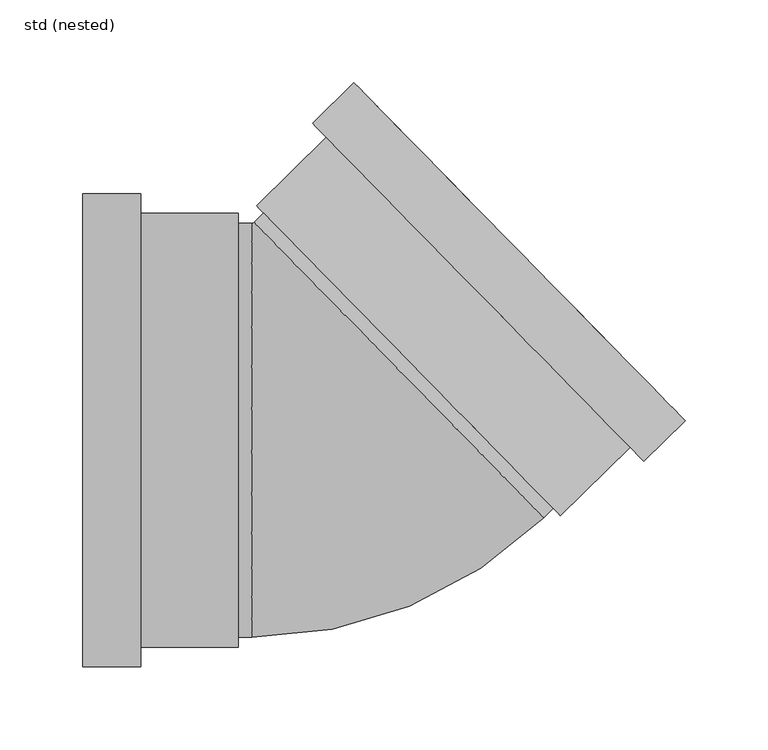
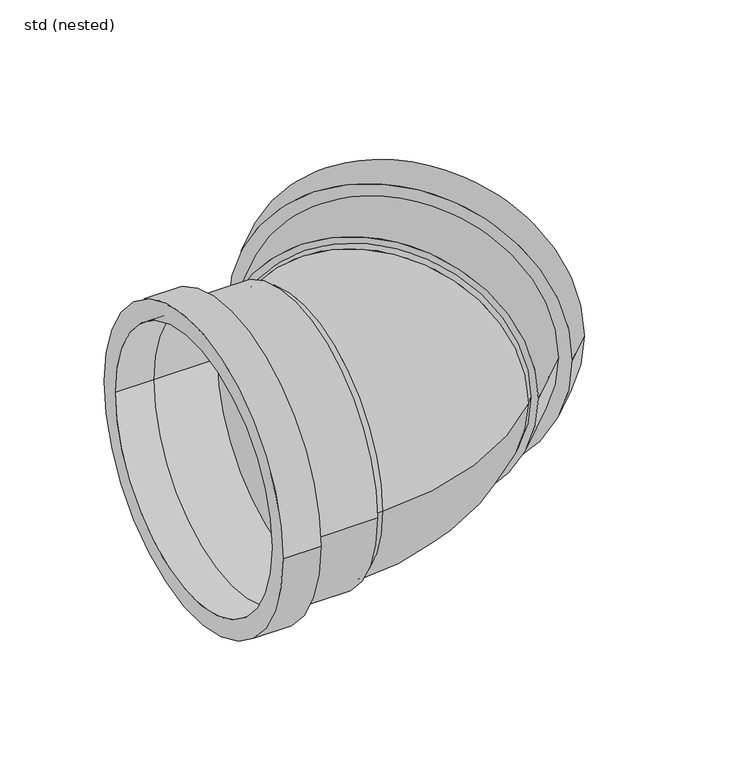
"""IFC4 building model written with IfcOpenShell, lengths in millimetres: pipe fitting geometry, NLRS_52_PIF_UN_SN4 SN8 bocht -SH_Dyka : std (nested)."""

from ifc_helpers import new_model, si_unit, point, frame, origin, place, context, project, spatial, polyline, circle_curve, ellipse_curve, trimmed, source, transform, mapped, element, save
from ifc_brep_helpers import plane_surface, cylinder_surface, revolved_surface, advanced_brep


def std_nested_1cf550fe(model_context):
    return source(origin(), model_context, "Body", "AdvancedBrep", [
        advanced_brep(
        [(-154.0, -143.0, 0.0), (-154.0, 143.0, 0.0), (-154.0, -125.0, 0.0), (-154.0, 125.0, 0.0), (-119.0, -125.0, 0.0), (-119.0, 125.0, 0.0), (-119.0, -143.0, 0.0), (-119.0, 143.0, 0.0), (-119.0, -131.2, 0.0), (-119.0, 131.2, 0.0), (-60.0, -131.2, 0.0), (-60.0, 131.2, 0.0), (-60.0, -125.0, 0.0), (-60.0, 125.0, 0.0)],
        [
            (0, 1, circle_curve(frame((-154.0, 0.0, 0.0), z_axis=(-1.0, 0.0, 0.0), x_axis=(0.0, 1.0, 0.0)), 143.0)),
            (1, 0, circle_curve(frame((-154.0, 0.0, 0.0), z_axis=(-1.0, 0.0, 0.0), x_axis=(0.0, 1.0, 0.0)), 143.0)),
            (2, 3, circle_curve(frame((-154.0, 0.0, 0.0), z_axis=(1.0, 0.0, 0.0), x_axis=(0.0, 1.0, 0.0)), 125.0)),
            (3, 2, circle_curve(frame((-154.0, 0.0, 0.0), z_axis=(1.0, 0.0, 0.0), x_axis=(0.0, 1.0, 0.0)), 125.0)),
            (2, 4),
            (4, 5, circle_curve(frame((-119.0, 0.0, 0.0), z_axis=(1.0, 0.0, 0.0), x_axis=(0.0, 1.0, 0.0)), 125.0)),
            (5, 3),
            (5, 4, circle_curve(frame((-119.0, 0.0, 0.0), z_axis=(1.0, 0.0, 0.0), x_axis=(0.0, 1.0, 0.0)), 125.0)),
            (0, 6),
            (6, 7, circle_curve(frame((-119.0, 0.0, 0.0), z_axis=(-1.0, 0.0, 0.0), x_axis=(0.0, 1.0, 0.0)), 143.0)),
            (7, 1),
            (7, 6, circle_curve(frame((-119.0, 0.0, 0.0), z_axis=(-1.0, 0.0, 0.0), x_axis=(0.0, 1.0, 0.0)), 143.0)),
            (8, 9, circle_curve(frame((-119.0, 0.0, 0.0), z_axis=(-1.0, 0.0, 0.0), x_axis=(0.0, 1.0, 0.0)), 131.2)),
            (9, 8, circle_curve(frame((-119.0, 0.0, 0.0), z_axis=(-1.0, 0.0, 0.0), x_axis=(0.0, 1.0, 0.0)), 131.2)),
            (10, 11, circle_curve(frame((-60.0, 0.0, 0.0), z_axis=(1.0, 0.0, 0.0), x_axis=(0.0, 1.0, 0.0)), 131.2)),
            (11, 10, circle_curve(frame((-60.0, 0.0, 0.0), z_axis=(1.0, 0.0, 0.0), x_axis=(0.0, 1.0, 0.0)), 131.2)),
            (12, 13, circle_curve(frame((-60.0, 0.0, 0.0), z_axis=(-1.0, 0.0, 0.0), x_axis=(0.0, 1.0, 0.0)), 125.0)),
            (13, 12, circle_curve(frame((-60.0, 0.0, 0.0), z_axis=(-1.0, 0.0, 0.0), x_axis=(0.0, 1.0, 0.0)), 125.0)),
            (13, 5),
            (4, 12),
            (11, 9),
            (8, 10),
        ],
        [
            plane_surface(frame((-154.0, 125.0, 0.0), z_axis=(-1.0, 0.0, 0.0), x_axis=(0.0, 0.0, 1.0))),
            revolved_surface(polyline([(-119.0, 125.0, 0.0), (-154.0, 125.0, 0.0)]), (-119.0, 0.0, 0.0), (1.0, 0.0, 0.0)),
            cylinder_surface(frame((-60.0, 0.0, 0.0), z_axis=(-1.0, 0.0, 0.0), x_axis=(0.0, 1.0, 0.0)), 143.0),
            plane_surface(frame((-119.0, 125.0, 0.0), z_axis=(1.0, 0.0, 0.0), x_axis=(0.0, 0.0, -1.0))),
            plane_surface(frame((-60.0, 125.0, 0.0), z_axis=(1.0, 0.0, 0.0), x_axis=(0.0, 0.0, -1.0))),
            revolved_surface(polyline([(-60.0, 125.0, 0.0), (-119.0, 125.0, 0.0)]), (-60.0, 0.0, 0.0), (1.0, 0.0, 0.0)),
            cylinder_surface(frame((-60.0, 0.0, 0.0), z_axis=(-1.0, 0.0, 0.0), x_axis=(0.0, 1.0, 0.0)), 131.2),
        ],
        [
            (0, [[1, 2], [3, 4]]),
            (1, [[-3, 5, 6, 7]]),
            (1, [[-4, -7, 8, -5]]),
            (2, [[-1, 9, 10, 11]]),
            (2, [[-2, -11, 12, -9]]),
            (3, [[-12, -10], [13, 14]]),
            (4, [[15, 16], [17, 18]]),
            (5, [[-18, 19, -6, 20]]),
            (5, [[-17, -20, -8, -19]]),
            (6, [[-16, 21, -13, 22]]),
            (6, [[-15, -22, -14, -21]]),
        ],
    ),
        advanced_brep(
        [(9.877578, 209.9224463, 0.0), (210.0779864, 5.6779936, 0.0), (22.4776037, 197.0679003, 0.0), (197.4779607, 18.5325396, 0.0), (-2.5173468, 172.5678503, 0.0), (172.4830102, -5.9675104, 0.0), (-15.1173725, 185.4223963, 0.0), (185.0830359, -18.8220564, 0.0), (-48.9917008, 135.695443, 0.0), (134.688674, -51.6952716, 0.0), (-44.6516919, 131.2677661, 0.0), (130.3486651, -47.2675947, 0.0), (176.8230191, -10.3951874, 0.0), (-6.8573557, 176.9955273, 0.0)],
        [
            (0, 1, circle_curve(frame((109.9777822, 107.8002199, 0.0), z_axis=(0.7141414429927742, 0.7000014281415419, 0.0), x_axis=(0.7000014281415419, -0.7141414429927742, 0.0)), 143.0)),
            (1, 0, circle_curve(frame((109.9777822, 107.8002199, 0.0), z_axis=(0.7141414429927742, 0.7000014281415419, 0.0), x_axis=(0.7000014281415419, -0.7141414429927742, 0.0)), 143.0)),
            (2, 3, circle_curve(frame((109.9777822, 107.8002199, 0.0), z_axis=(-0.7141414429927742, -0.7000014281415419, 0.0), x_axis=(0.7000014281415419, -0.7141414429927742, 0.0)), 125.0)),
            (3, 2, circle_curve(frame((109.9777822, 107.8002199, 0.0), z_axis=(-0.7141414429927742, -0.7000014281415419, 0.0), x_axis=(0.7000014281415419, -0.7141414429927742, 0.0)), 125.0)),
            (2, 4),
            (4, 5, circle_curve(frame((84.9828317, 83.3001699, 0.0), z_axis=(-0.7141414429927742, -0.7000014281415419, 0.0), x_axis=(0.7000014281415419, -0.7141414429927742, 0.0)), 125.0)),
            (5, 3),
            (5, 4, circle_curve(frame((84.9828317, 83.3001699, 0.0), z_axis=(-0.7141414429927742, -0.7000014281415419, 0.0), x_axis=(0.7000014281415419, -0.7141414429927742, 0.0)), 125.0)),
            (0, 6),
            (6, 7, circle_curve(frame((84.9828317, 83.3001699, 0.0), z_axis=(0.7141414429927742, 0.7000014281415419, 0.0), x_axis=(0.7000014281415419, -0.7141414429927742, 0.0)), 143.0)),
            (7, 1),
            (7, 6, circle_curve(frame((84.9828317, 83.3001699, 0.0), z_axis=(0.7141414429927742, 0.7000014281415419, 0.0), x_axis=(0.7000014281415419, -0.7141414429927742, 0.0)), 143.0)),
            (8, 9, circle_curve(frame((42.8484866, 42.0000857, 0.0), z_axis=(-0.7141414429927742, -0.7000014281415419, 0.0), x_axis=(0.7000014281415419, -0.7141414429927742, 0.0)), 131.2)),
            (9, 8, circle_curve(frame((42.8484866, 42.0000857, 0.0), z_axis=(-0.7141414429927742, -0.7000014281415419, 0.0), x_axis=(0.7000014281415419, -0.7141414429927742, 0.0)), 131.2)),
            (10, 11, circle_curve(frame((42.8484866, 42.0000857, 0.0), z_axis=(0.7141414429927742, 0.7000014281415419, 0.0), x_axis=(0.7000014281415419, -0.7141414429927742, 0.0)), 125.0)),
            (11, 10, circle_curve(frame((42.8484866, 42.0000857, 0.0), z_axis=(0.7141414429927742, 0.7000014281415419, 0.0), x_axis=(0.7000014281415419, -0.7141414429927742, 0.0)), 125.0)),
            (11, 5),
            (4, 10),
            (9, 12),
            (12, 13, circle_curve(frame((84.9828317, 83.3001699, 0.0), z_axis=(-0.7141414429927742, -0.7000014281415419, 0.0), x_axis=(0.7000014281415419, -0.7141414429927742, 0.0)), 131.2)),
            (13, 8),
            (13, 12, circle_curve(frame((84.9828317, 83.3001699, 0.0), z_axis=(-0.7141414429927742, -0.7000014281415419, 0.0), x_axis=(0.7000014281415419, -0.7141414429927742, 0.0)), 131.2)),
        ],
        [
            plane_surface(frame((197.4779607, 18.5325396, 0.0), z_axis=(0.7141414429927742, 0.7000014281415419, 0.0), x_axis=(0.0, 0.0, 1.0))),
            revolved_surface(polyline([(172.48301021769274, -5.96751047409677, 0.0), (197.47796075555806, 18.53253954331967, 0.0)]), (84.9828317, 83.3001699, 0.0), (-0.7141414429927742, -0.7000014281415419, 0.0)),
            cylinder_surface(frame((42.8484866, 42.0000857, 0.0), z_axis=(0.7141414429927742, 0.7000014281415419, 0.0), x_axis=(0.7000014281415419, -0.7141414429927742, 0.0)), 143.0),
            plane_surface(frame((130.3486651, -47.2675947, 0.0), z_axis=(-0.7141414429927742, -0.7000014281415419, 0.0), x_axis=(0.0, 0.0, -1.0))),
            revolved_surface(polyline([(130.34866509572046, -47.267594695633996, 0.0), (172.48301023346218, -5.96751043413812, 0.0)]), (42.8484866, 42.0000857, 0.0), (-0.7141414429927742, -0.7000014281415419, 0.0)),
            cylinder_surface(frame((42.8484866, 42.0000857, 0.0), z_axis=(0.7141414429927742, 0.7000014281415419, 0.0), x_axis=(0.7000014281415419, -0.7141414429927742, 0.0)), 131.2),
            plane_surface(frame((172.4830102, -5.9675104, 0.0), z_axis=(-0.7141414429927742, -0.7000014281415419, 0.0), x_axis=(0.0, 0.0, -1.0))),
        ],
        [
            (0, [[1, 2], [3, 4]]),
            (1, [[-3, 5, 6, 7]]),
            (1, [[-4, -7, 8, -5]]),
            (2, [[-1, 9, 10, 11]]),
            (2, [[-2, -11, 12, -9]]),
            (3, [[13, 14], [15, 16]]),
            (4, [[-16, 17, -6, 18]]),
            (4, [[-15, -18, -8, -17]]),
            (5, [[-14, 19, 20, 21]]),
            (5, [[-13, -21, 22, -19]]),
            (6, [[-12, -10], [-20, -22]]),
        ],
    ),
        advanced_brep(
        [(-60.0, -125.0, 0.0), (-60.0, 125.0, 0.0), (-51.8628038, -125.0, 0.0), (-51.8628038, 0.0, 125.0), (-51.8628038, 125.0, 0.0), (-51.8628038, 0.0, -125.0), (-50.462801, 125.5717171, 0.0), (124.5375561, -52.9636436, 0.0), (37.0373776, 36.3040367, 125.0), (37.0373776, 36.3040367, -125.0), (-44.6516919, 131.2677661, 0.0), (130.3486651, -47.2675947, 0.0)],
        [
            (0, 1, circle_curve(frame((-60.0, 0.0, 0.0), z_axis=(-1.0, 0.0, 0.0), x_axis=(0.0, 1.0, 0.0)), 125.0)),
            (1, 0, circle_curve(frame((-60.0, 0.0, 0.0), z_axis=(-1.0, 0.0, 0.0), x_axis=(0.0, 1.0, 0.0)), 125.0)),
            (0, 2),
            (2, 3, circle_curve(frame((-51.8628038, 0.0, 0.0), z_axis=(-1.0, 0.0, 0.0), x_axis=(0.0, 1.0, 0.0)), 125.0)),
            (3, 4, circle_curve(frame((-51.8628038, 0.0, 0.0), z_axis=(-1.0, 0.0, 0.0), x_axis=(0.0, 1.0, 0.0)), 125.0)),
            (4, 1),
            (4, 5, circle_curve(frame((-51.8628038, 0.0, 0.0), z_axis=(-1.0, 0.0, 0.0), x_axis=(0.0, 1.0, 0.0)), 125.0)),
            (5, 2, circle_curve(frame((-51.8628038, 0.0, 0.0), z_axis=(-1.0, 0.0, 0.0), x_axis=(0.0, 1.0, 0.0)), 125.0)),
            (6, 4, circle_curve(frame((-51.8628038, 127.0, 0.0), z_axis=(0.0, 0.0, -1.0), x_axis=(0.0, -1.0, 0.0)), 2.0)),
            (2, 7, circle_curve(frame((-51.8628038, 127.0, 0.0), z_axis=(0.0, 0.0, 1.0), x_axis=(0.0, -1.0, 0.0)), 252.0)),
            (7, 8, circle_curve(frame((37.0373776, 36.3040367, 0.0), z_axis=(-0.7141414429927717, -0.7000014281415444, 0.0), x_axis=(-0.7000014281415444, 0.7141414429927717, 0.0)), 125.0)),
            (8, 6, circle_curve(frame((37.0373776, 36.3040367, 0.0), z_axis=(-0.7141414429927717, -0.7000014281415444, 0.0), x_axis=(-0.7000014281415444, 0.7141414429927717, 0.0)), 125.0)),
            (6, 9, circle_curve(frame((37.0373776, 36.3040367, 0.0), z_axis=(-0.7141414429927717, -0.7000014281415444, 0.0), x_axis=(-0.7000014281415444, 0.7141414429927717, 0.0)), 125.0)),
            (9, 7, circle_curve(frame((37.0373776, 36.3040367, 0.0), z_axis=(-0.7141414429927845, -0.7000014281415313, 0.0), x_axis=(-0.7000014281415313, 0.7141414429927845, 0.0)), 125.0)),
            (10, 11, circle_curve(frame((42.8484866, 42.0000857, 0.0), z_axis=(0.7141414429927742, 0.7000014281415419, 0.0), x_axis=(0.7000014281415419, -0.7141414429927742, 0.0)), 125.0)),
            (11, 10, circle_curve(frame((42.8484866, 42.0000857, 0.0), z_axis=(0.7141414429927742, 0.7000014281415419, 0.0), x_axis=(0.7000014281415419, -0.7141414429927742, 0.0)), 125.0)),
            (10, 6),
            (7, 11),
        ],
        [
            plane_surface(frame((-60.0, 125.0, 0.0), z_axis=(-1.0, 0.0, 0.0), x_axis=(0.0, 0.0, -1.0))),
            cylinder_surface(frame((-51.8628038, 0.0, 0.0), z_axis=(-1.0, 0.0, 0.0), x_axis=(0.0, 1.0, 0.0)), 125.0),
            revolved_surface(trimmed(ellipse_curve(frame((-51.8628038, 0.0, 0.0), z_axis=(-1.0, 0.0, 0.0), x_axis=(0.0, 1.0, 0.0)), 125.0, 125.0), [point((-51.8628038, -125.0, 0.0))], [point((-51.8628038, 125.0, 0.0))], True, "CARTESIAN"), (-51.8628038, 127.0, 0.0), (0.0, 0.0, 1.0)),
            revolved_surface(trimmed(ellipse_curve(frame((-51.8628038, 0.0, 0.0), z_axis=(-1.0, 0.0, 0.0), x_axis=(0.0, 1.0, 0.0)), 125.0, 125.0), [point((-51.8628038, 125.0, 0.0))], [point((-51.8628038, -125.0, 0.0))], True, "CARTESIAN"), (-51.8628038, 127.0, 0.0), (0.0, 0.0, 1.0)),
            plane_surface(frame((130.3486651, -47.2675947, 0.0), z_axis=(0.7141414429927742, 0.7000014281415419, 0.0), x_axis=(0.0, 0.0, -1.0))),
            cylinder_surface(frame((37.0373776, 36.3040367, 0.0), z_axis=(0.7141414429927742, 0.7000014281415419, 0.0), x_axis=(0.7000014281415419, -0.7141414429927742, 0.0)), 125.0),
        ],
        [
            (0, [[1, 2]]),
            (1, [[-1, 3, 4, 5, 6]]),
            (1, [[-2, -6, 7, 8, -3]]),
            (2, [[9, -5, -4, 10, 11, 12]]),
            (3, [[-9, 13, 14, -10, -8, -7]]),
            (4, [[15, 16]]),
            (5, [[-15, 17, -12, -11, 18]]),
            (5, [[-16, -18, -14, -13, -17]]),
        ],
    ),
    ])


if __name__ == "__main__":
    model = new_model("IFC4")
    model_context = context("Model", 3, world=origin())
    ifc_project = project(units=[si_unit("LENGTHUNIT", "METRE", prefix="MILLI")], contexts=[model_context])
    site = spatial("IfcSite", under=ifc_project)
    building = spatial("IfcBuilding", under=site)
    placement = place(None, origin())
    std_nested_shape = std_nested_1cf550fe(model_context)
    element("IfcPipeFitting", 1, ObjectType="NLRS_52_PIF_UN_SN4 SN8 bocht -SH_Dyka : std (nested)", at=placement, inside=building, context=model_context, shape_type="MappedRepresentation", body=[
        mapped(std_nested_shape, transform((0.0, 0.0, 0.0), x_axis=(1.0, 0.0, 0.0), y_axis=(0.0, 1.0, 0.0), z_axis=(0.0, 0.0, 1.0))),
    ])
    save(model, "model.ifc")
